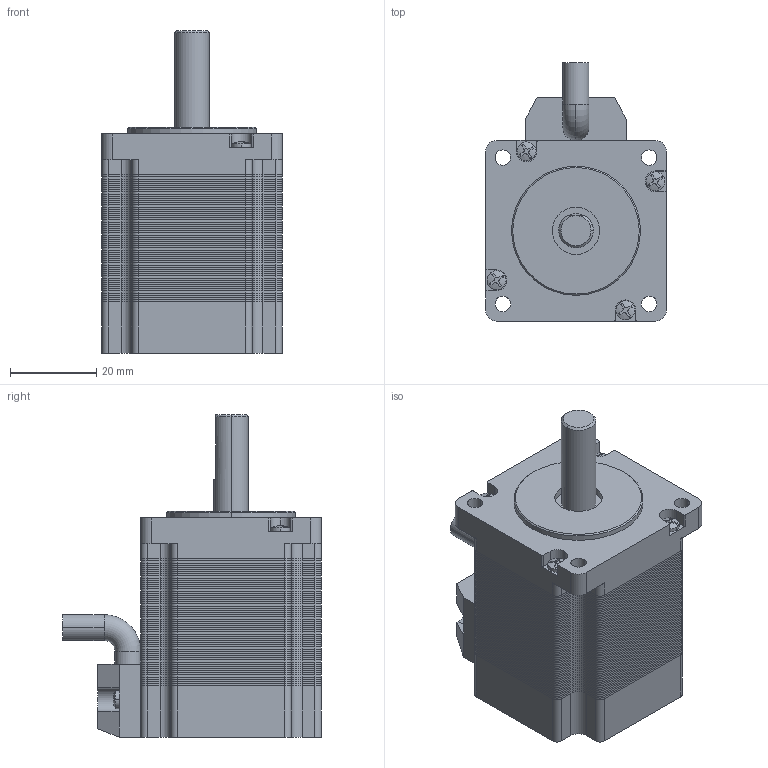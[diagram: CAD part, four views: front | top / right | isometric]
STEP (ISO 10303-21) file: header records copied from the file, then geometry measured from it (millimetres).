
FILE_DESCRIPTION (( 'STEP AP203' ), '1' );
FILE_NAME ('SMH1704.STEP', '2020-05-23T06:14:57', ( 'Windows' ), ( 'Microsoft' ), 'SwSTEP 2.0', 'SolidWorks 2016', '' );
FILE_SCHEMA (( 'CONFIG_CONTROL_DESIGN' ));
Length unit declared in the file: millimetre
Products named in the file (1): SMH1704
Bounding box: 42 x 60.15 x 75 mm (x, y, z)
Volume: 86373.5 mm3; surface area: 203415 mm2
Topology: 62 solids, 62 shells, 1827 faces, 5044 edges, 3349 vertices
Faces by surface type: plane 974, cylinder 822, cone 15, sphere 12, torus 4
Entity records: 58644 total; most frequent: DIRECTION 10401, CARTESIAN_POINT 10357, ORIENTED_EDGE 10072, EDGE_CURVE 5036, AXIS2_PLACEMENT_3D 3567, VERTEX_POINT 3349, LINE 3267, VECTOR 3267
